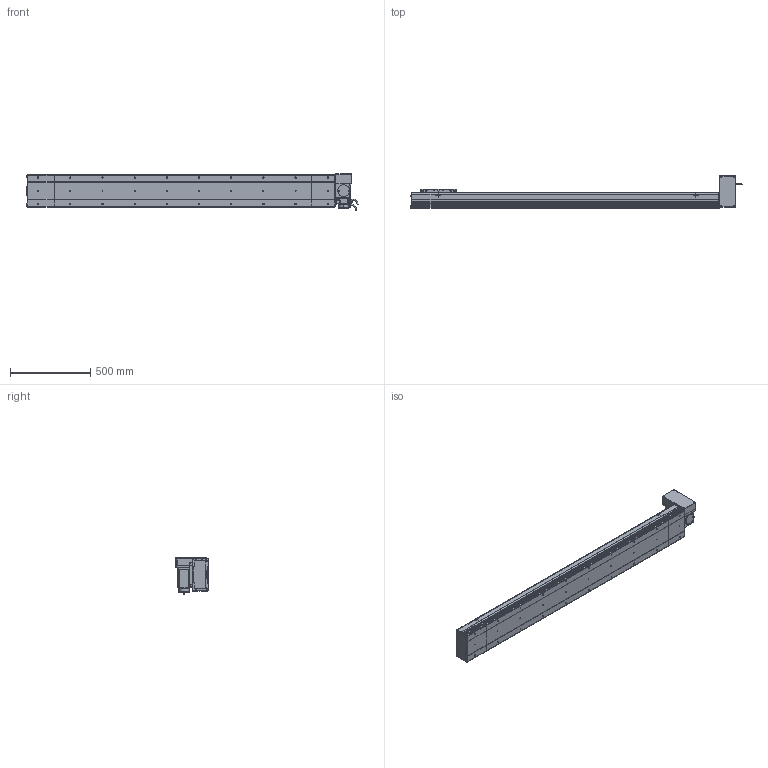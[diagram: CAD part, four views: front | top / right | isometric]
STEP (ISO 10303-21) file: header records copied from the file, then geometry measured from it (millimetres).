
FILE_DESCRIPTION (( 'STEP AP214' ), '1' );
FILE_NAME ('D20 CBH LT S1600.STEP', '2010-06-30T09:36:26', ( 'Conseil Régional Haute-Normandie' ), ( 'Conseil Régional Haute-Normandie' ), 'SwSTEP 2.0', 'SolidWorks 2010', '' );
FILE_SCHEMA (( 'AUTOMOTIVE_DESIGN' ));
Length unit declared in the file: millimetre
Products named in the file (31): D20 CBH LT S1600; vis M5 L30_Default; Head LT_Default; Corp Tail D20 LT_Default; Chariot D20_Default; Plaque De Serrage D20_Default; Plaque de Bout Tail D20_Default; vis M5 L15_Default; Support Chariot D20_Default; Glissiere_Default; Couvercle LT_Default; Corp S1600_Default; Corp Tail D20_Default; ecrou_Default; Tail D20_Default; Couvercle_Default; Corp D20 S1600_Default; corps 90BLDC125A-640; codeur 90BLDC125-640; Conecteur2_Default; Conecteur_Default; Cache Support Moteur LT_Default; Plaque de Bout Head D20 LT_Default; Plaque De Serrage D20 LT_Default; Rondelle Cache D20 LT_Default; Support moteur LT_Default; Moteur motionking 90BLDC125A-640; Couvercle S1600_Default; avant 90BLDC125A-640; vis M5 L47_Default
Assembly tree (66 placements, depth 4):
  D20 CBH LT S1600
    Tail D20_Default
      Corp Tail D20_Default
      vis M5 L15_Default  x6
      Plaque De Serrage D20_Default
      Plaque de Bout Tail D20_Default
      Couvercle_Default
    Head LT_Default
      ecrou_Default  x4
      Plaque De Serrage D20 LT_Default
      vis M5 L15_Default  x12
      Support moteur LT_Default
      vis M5 L47_Default  x4
      vis M5 L30_Default  x4
      Rondelle Cache D20 LT_Default  x3
      Plaque de Bout Head D20 LT_Default
      Moteur motionking 90BLDC125A-640
        codeur 90BLDC125-640
        Conecteur_Default
        Conecteur2_Default
        avant 90BLDC125A-640
        corps 90BLDC125A-640
      Corp Tail D20 LT_Default
      Couvercle LT_Default
      Cache Support Moteur LT_Default
    Corp D20 S1600_Default
      Couvercle S1600_Default
      Corp S1600_Default
    Chariot D20_Default
      vis M5 L15_Default  x8
      Chariot D20_Default
      Glissiere_Default
      Support Chariot D20_Default
Bounding box: 2063.45 x 202.5 x 229.7 mm (x, y, z)
Volume: 14320514.5 mm3; surface area: 2842769.7 mm2
Topology: 103 solids, 103 shells, 3765 faces, 9440 edges, 6136 vertices
Faces by surface type: plane 2092, bspline 806, cylinder 704, torus 91, cone 68, sphere 4
Entity records: 160390 total; most frequent: CARTESIAN_POINT 83185, ORIENTED_EDGE 15348, DIRECTION 11568, EDGE_CURVE 7674, VERTEX_POINT 5080, LINE 4934, VECTOR 4934, AXIS2_PLACEMENT_3D 3317
